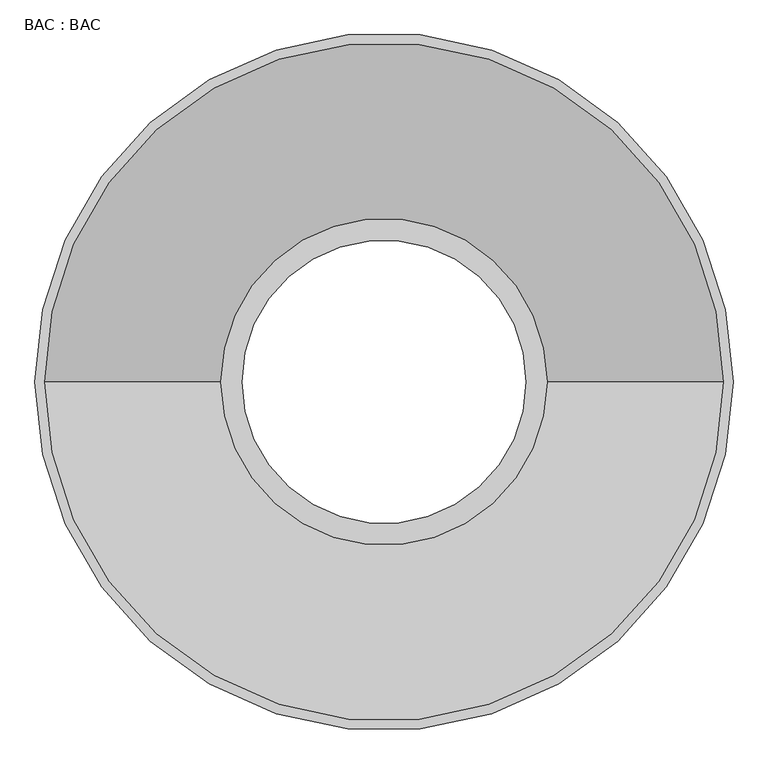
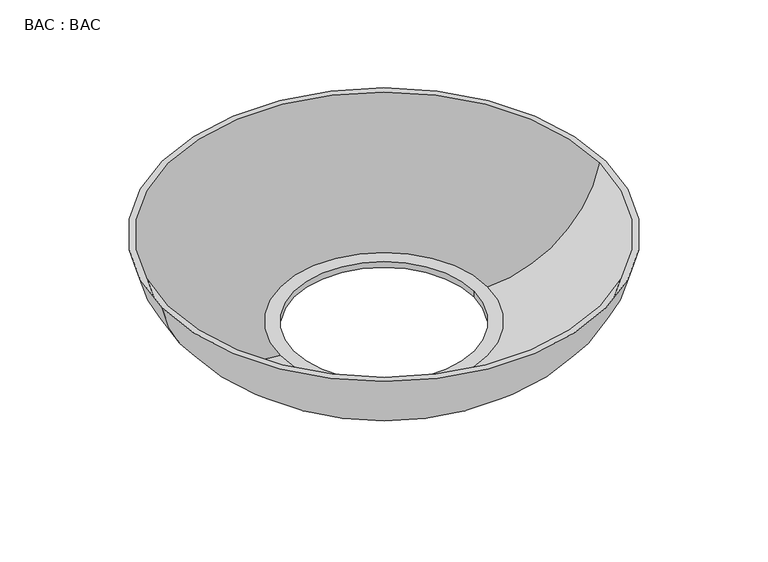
"""IFC4 building model written with IfcOpenShell, lengths in millimetres: proxy geometry, BAC : BAC."""

from ifc_helpers import new_model, si_unit, point, frame, origin, place, context, project, spatial, polyline, circle_curve, ellipse_curve, trimmed, source, transform, mapped, element, save
from ifc_brep_helpers import plane_surface, revolved_surface, advanced_brep


def bac_bac_6a6e9f24(model_context):
    return source(origin(), model_context, "Body", "AdvancedBrep", [
        advanced_brep(
        [(4726.5314834, -7480.014213, 1268.0838649), (4042.5850688, -7480.014213, 1268.0838649), (3674.9306329, -7480.014213, 1569.7359461), (5094.1859194, -7480.014213, 1569.7359461), (4680.9903758, -7480.014213, 1248.0838649), (4088.1261765, -7480.014213, 1248.0838649), (4088.1261765, -7480.014213, 1268.0838649), (4680.9903758, -7480.014213, 1268.0838649), (5114.5582761, -7480.014213, 1569.7359461), (3654.5582761, -7480.014213, 1569.7359461), (4042.5850688, -7480.014213, 1248.0838649), (4726.5314834, -7480.014213, 1248.0838649)],
        [
            (0, 1, circle_curve(frame((4384.5582761, -7480.014213, 1268.0838649), z_axis=(0.0, 0.0, -1.0), x_axis=(-1.0, 0.0, 0.0)), 341.9732073)),
            (1, 2, circle_curve(frame((4042.5850688, -7480.014213, 1642.9590546), z_axis=(0.0, 1.0, 0.0), x_axis=(1.0, 0.0, 0.0)), 374.8751897)),
            (2, 3, circle_curve(frame((4384.5582761, -7480.014213, 1569.7359461), z_axis=(0.0, 0.0, 1.0), x_axis=(-1.0, 0.0, 0.0)), 709.6276432)),
            (3, 0, circle_curve(frame((4726.5314834, -7480.014213, 1642.9590546), z_axis=(0.0, 1.0, 0.0), x_axis=(-1.0, 0.0, 0.0)), 374.8751897)),
            (4, 5, circle_curve(frame((4384.5582761, -7480.014213, 1248.0838649), z_axis=(0.0, 0.0, -1.0), x_axis=(-1.0, 0.0, 0.0)), 296.4320997)),
            (5, 6),
            (6, 7, circle_curve(frame((4384.5582761, -7480.014213, 1268.0838649), z_axis=(0.0, 0.0, 1.0), x_axis=(-1.0, 0.0, 0.0)), 296.4320997)),
            (7, 4),
            (8, 9, circle_curve(frame((4384.5582761, -7480.014213, 1569.7359461), z_axis=(0.0, 0.0, -1.0), x_axis=(-1.0, 0.0, 0.0)), 730.0)),
            (9, 10, circle_curve(frame((4042.5850688, -7480.014213, 1642.9590546), z_axis=(0.0, -1.0, 0.0), x_axis=(1.0, 0.0, 0.0)), 394.8751897)),
            (10, 11, circle_curve(frame((4384.5582761, -7480.014213, 1248.0838649), z_axis=(0.0, 0.0, 1.0), x_axis=(-1.0, 0.0, 0.0)), 341.9732073)),
            (11, 8, circle_curve(frame((4726.5314834, -7480.014213, 1642.9590546), z_axis=(0.0, -1.0, 0.0), x_axis=(-1.0, 0.0, 0.0)), 394.8751897)),
            (8, 9, circle_curve(frame((4384.5582761, -7480.014213, 1569.7359461), z_axis=(0.0, 0.0, 1.0), x_axis=(1.0, 0.0, 0.0)), 730.0)),
            (2, 3, circle_curve(frame((4384.5582761, -7480.014213, 1569.7359461), z_axis=(0.0, 0.0, -1.0), x_axis=(1.0, 0.0, 0.0)), 709.6276432)),
            (1, 0, circle_curve(frame((4384.5582761, -7480.014213, 1268.0838649), z_axis=(0.0, 0.0, -1.0), x_axis=(1.0, 0.0, 0.0)), 341.9732073)),
            (6, 7, circle_curve(frame((4384.5582761, -7480.014213, 1268.0838649), z_axis=(0.0, 0.0, -1.0), x_axis=(1.0, 0.0, 0.0)), 296.4320997)),
            (5, 4, circle_curve(frame((4384.5582761, -7480.014213, 1248.0838649), z_axis=(0.0, 0.0, -1.0), x_axis=(1.0, 0.0, 0.0)), 296.4320997)),
            (10, 11, circle_curve(frame((4384.5582761, -7480.014213, 1248.0838649), z_axis=(0.0, 0.0, -1.0), x_axis=(1.0, 0.0, 0.0)), 341.9732073)),
        ],
        [
            revolved_surface(trimmed(ellipse_curve(frame((4042.5850688, -7480.014213, 1642.9590546), z_axis=(0.0, -1.0, 0.0), x_axis=(1.0, 0.0, 0.0)), 374.8751897, 374.8751897), [point((3674.9306329, -7480.014213, 1569.7359461))], [point((4042.5850688, -7480.014213, 1268.0838649))], True, "CARTESIAN"), (4384.5582761, -7480.014213, 1248.0838649), (0.0, 0.0, 1.0)),
            revolved_surface(polyline([(4088.1261763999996, -7480.014213, 1268.0838649), (4088.1261763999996, -7480.014213, 1248.0838649)]), (4384.5582761, -7480.014213, 1248.0838649), (0.0, 0.0, 1.0)),
            revolved_surface(trimmed(ellipse_curve(frame((4042.5850688, -7480.014213, 1642.9590546), z_axis=(0.0, 1.0, 0.0), x_axis=(1.0, 0.0, 0.0)), 394.8751897, 394.8751897), [point((4042.5850688, -7480.014213, 1248.0838649))], [point((3654.5582761, -7480.014213, 1569.7359461))], True, "CARTESIAN"), (4384.5582761, -7480.014213, 1248.0838649), (0.0, 0.0, 1.0)),
            plane_surface(frame((4384.5582761, -7480.014213, 1569.7359461), z_axis=(0.0, 0.0, 1.0), x_axis=(1.0, 0.0, 0.0))),
            revolved_surface(trimmed(ellipse_curve(frame((4726.5314834, -7480.014213, 1642.9590546), z_axis=(0.0, 1.0, 0.0), x_axis=(-1.0, 0.0, 0.0)), 374.8751897, 374.8751897), [point((5094.1859194, -7480.014213, 1569.7359461))], [point((4726.5314834, -7480.014213, 1268.0838649))], True, "CARTESIAN"), (4384.5582761, -7480.014213, 1248.0838649), (0.0, 0.0, 1.0)),
            plane_surface(frame((4384.5582761, -7480.014213, 1268.0838649), z_axis=(0.0, 0.0, 1.0), x_axis=(1.0, 0.0, 0.0))),
            revolved_surface(polyline([(4680.9903758, -7480.014213, 1268.0838649), (4680.9903758, -7480.014213, 1248.0838649)]), (4384.5582761, -7480.014213, 1248.0838649), (0.0, 0.0, 1.0)),
            plane_surface(frame((4384.5582761, -7480.014213, 1248.0838649), z_axis=(0.0, 0.0, -1.0), x_axis=(1.0, 0.0, 0.0))),
            revolved_surface(trimmed(ellipse_curve(frame((4726.5314834, -7480.014213, 1642.9590546), z_axis=(0.0, -1.0, 0.0), x_axis=(-1.0, 0.0, 0.0)), 394.8751897, 394.8751897), [point((4726.5314834, -7480.014213, 1248.0838649))], [point((5114.5582761, -7480.014213, 1569.7359461))], True, "CARTESIAN"), (4384.5582761, -7480.014213, 1248.0838649), (0.0, 0.0, 1.0)),
        ],
        [
            (0, [[1, 2, 3, 4]]),
            (1, [[5, 6, 7, 8]]),
            (2, [[9, 10, 11, 12]]),
            (3, [[13, -9], [14, -3]]),
            (4, [[15, -4, -14, -2]]),
            (5, [[-15, -1], [16, -7]]),
            (6, [[17, -8, -16, -6]]),
            (7, [[18, -11], [-17, -5]]),
            (8, [[-13, -12, -18, -10]]),
        ],
    ),
    ])


if __name__ == "__main__":
    model = new_model("IFC4")
    model_context = context("Model", 3, world=origin())
    ifc_project = project(units=[si_unit("LENGTHUNIT", "METRE", prefix="MILLI")], contexts=[model_context])
    site = spatial("IfcSite", under=ifc_project)
    building = spatial("IfcBuilding", under=site)
    placement = place(None, origin())
    bac_bac_shape = bac_bac_6a6e9f24(model_context)
    element("IfcBuildingElementProxy", 1, Name="BAC : BAC", ObjectType="BAC : BAC", at=placement, inside=building, context=model_context, shape_type="MappedRepresentation", body=[
        mapped(bac_bac_shape, transform((0.0, 0.0, 0.0), x_axis=(1.0, 0.0, 0.0), y_axis=(0.0, 1.0, 0.0), z_axis=(0.0, 0.0, 1.0))),
    ])
    save(model, "model.ifc")
